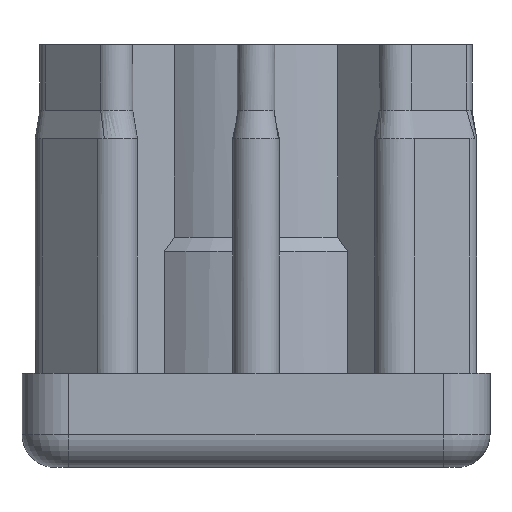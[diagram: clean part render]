
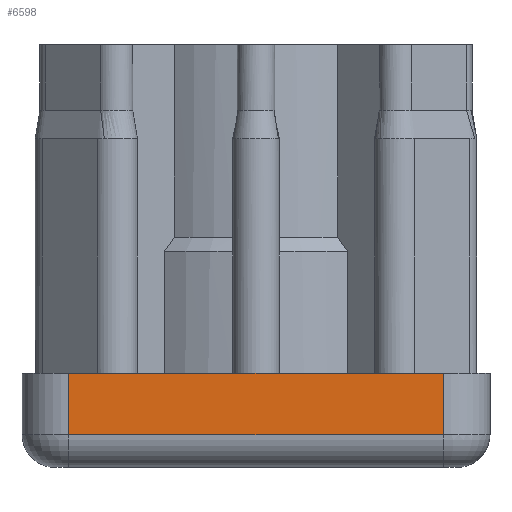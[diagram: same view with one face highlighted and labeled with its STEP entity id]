
A CAD part, left-side view. The second image highlights one B-rep face of the part: STEP entity #6598.
In plain terms, the highlighted planar face has unit normal (-1, 0, 0).
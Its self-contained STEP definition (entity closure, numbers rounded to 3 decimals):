
#6559=CARTESIAN_POINT('',(-24.9,-24.9,-10.));
#6560=DIRECTION('',(1.0,0.0,0.0));
#6561=DIRECTION('',(0.0,0.0,-1.0));
#6562=AXIS2_PLACEMENT_3D('',#6559,#6560,#6561);
#6563=PLANE('',#6562);
#6564=CARTESIAN_POINT('',(-24.9,19.9,0.));
#6565=VERTEX_POINT('',#6564);
#6566=CARTESIAN_POINT('',(-24.9,19.9,-6.5));
#6567=VERTEX_POINT('',#6566);
#6568=CARTESIAN_POINT('',(-24.9,19.9,-10.));
#6569=DIRECTION('',(0.0,0.0,1.0));
#6570=VECTOR('',#6569,1.);
#6571=LINE('',#6568,#6570);
#6572=EDGE_CURVE('',#6565,#6567,#6571,.F.);
#6573=ORIENTED_EDGE('',*,*,#6572,.T.);
#6574=CARTESIAN_POINT('',(-24.9,-19.9,-6.5));
#6575=VERTEX_POINT('',#6574);
#6576=CARTESIAN_POINT('',(-24.9,-19.9,-6.5));
#6577=DIRECTION('',(0.0,1.0,0.0));
#6578=VECTOR('',#6577,1.0);
#6579=LINE('',#6576,#6578);
#6580=EDGE_CURVE('',#6567,#6575,#6579,.F.);
#6581=ORIENTED_EDGE('',*,*,#6580,.T.);
#6582=CARTESIAN_POINT('',(-24.9,-19.9,0.));
#6583=VERTEX_POINT('',#6582);
#6584=CARTESIAN_POINT('',(-24.9,-19.9,-10.));
#6585=DIRECTION('',(0.0,0.0,1.0));
#6586=VECTOR('',#6585,1.);
#6587=LINE('',#6584,#6586);
#6588=EDGE_CURVE('',#6575,#6583,#6587,.T.);
#6589=ORIENTED_EDGE('',*,*,#6588,.T.);
#6590=CARTESIAN_POINT('',(-24.9,-24.9,0.));
#6591=DIRECTION('',(0.0,1.0,0.0));
#6592=VECTOR('',#6591,1.0);
#6593=LINE('',#6590,#6592);
#6594=EDGE_CURVE('',#6583,#6565,#6593,.T.);
#6595=ORIENTED_EDGE('',*,*,#6594,.T.);
#6596=EDGE_LOOP('',(#6573,#6581,#6589,#6595));
#6597=FACE_OUTER_BOUND('',#6596,.T.);
#6598=ADVANCED_FACE('',(#6597),#6563,.F.);
